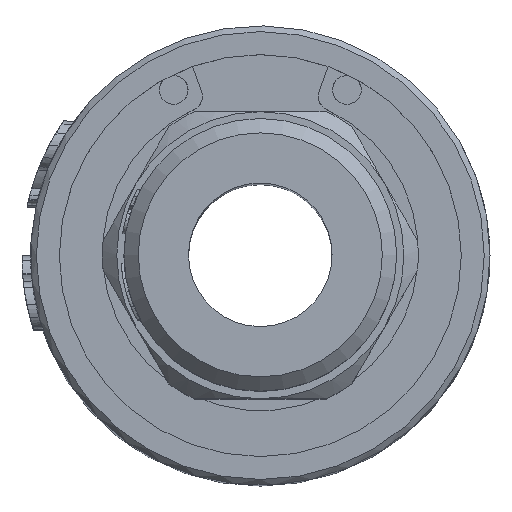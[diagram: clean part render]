
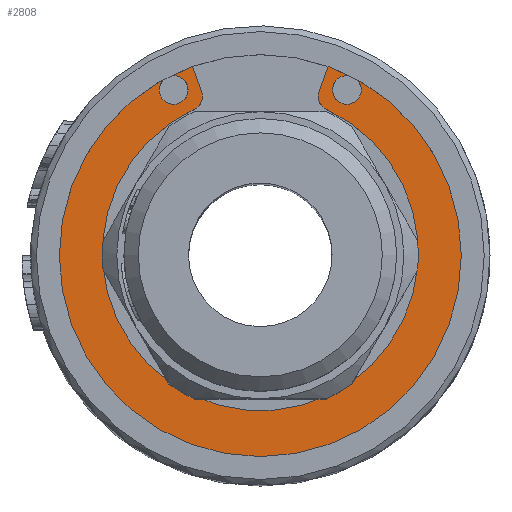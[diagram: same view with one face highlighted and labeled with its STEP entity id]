
A CAD part, top view. The second image highlights one B-rep face of the part: STEP entity #2808.
In plain terms, the highlighted planar face has unit normal (0, 0, 1).
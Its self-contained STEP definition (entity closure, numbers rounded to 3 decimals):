
#201=FACE_BOUND('',#4944,.T.);
#202=FACE_BOUND('',#4945,.T.);
#203=FACE_BOUND('',#4946,.T.);
#350=CIRCLE('',#17217,0.5);
#352=CIRCLE('',#17220,0.5);
#353=CIRCLE('',#17222,5.5);
#354=CIRCLE('',#17223,0.5);
#355=CIRCLE('',#17224,0.5);
#356=CIRCLE('',#17225,7.35);
#357=CIRCLE('',#17226,0.5);
#358=CIRCLE('',#17227,0.5);
#359=CIRCLE('',#17229,7.35);
#360=CIRCLE('',#17231,0.5);
#361=CIRCLE('',#17232,0.5);
#362=CIRCLE('',#17233,7.35);
#363=CIRCLE('',#17234,0.5);
#364=CIRCLE('',#17235,0.5);
#1207=LINE('',#31946,#1954);
#1208=LINE('',#31954,#1955);
#1209=LINE('',#31966,#1956);
#1210=LINE('',#31974,#1957);
#1954=VECTOR('',#18969,1.);
#1955=VECTOR('',#18976,1.);
#1956=VECTOR('',#18987,1.);
#1957=VECTOR('',#18994,1.);
#2808=ADVANCED_FACE('',(#201,#202,#203),#3352,.F.);
#3352=PLANE('',#17236);
#4944=EDGE_LOOP('',(#8369));
#4945=EDGE_LOOP('',(#8370,#8371,#8372,#8373,#8374,#8375,#8376,#8377,#8378,
#8379,#8380,#8381,#8382,#8383,#8384,#8385,#8386,#8387));
#4946=EDGE_LOOP('',(#8388));
#5369=ELLIPSE('',#17228,7.35,6.5);
#5370=ELLIPSE('',#17230,7.35,6.5);
#8369=ORIENTED_EDGE('',*,*,#13831,.T.);
#8370=ORIENTED_EDGE('',*,*,#13832,.F.);
#8371=ORIENTED_EDGE('',*,*,#13833,.T.);
#8372=ORIENTED_EDGE('',*,*,#13834,.T.);
#8373=ORIENTED_EDGE('',*,*,#13835,.T.);
#8374=ORIENTED_EDGE('',*,*,#13836,.F.);
#8375=ORIENTED_EDGE('',*,*,#13837,.T.);
#8376=ORIENTED_EDGE('',*,*,#13838,.T.);
#8377=ORIENTED_EDGE('',*,*,#13839,.T.);
#8378=ORIENTED_EDGE('',*,*,#13840,.F.);
#8379=ORIENTED_EDGE('',*,*,#13841,.F.);
#8380=ORIENTED_EDGE('',*,*,#13842,.T.);
#8381=ORIENTED_EDGE('',*,*,#13843,.F.);
#8382=ORIENTED_EDGE('',*,*,#13844,.F.);
#8383=ORIENTED_EDGE('',*,*,#13845,.F.);
#8384=ORIENTED_EDGE('',*,*,#13846,.T.);
#8385=ORIENTED_EDGE('',*,*,#13847,.F.);
#8386=ORIENTED_EDGE('',*,*,#13848,.F.);
#8387=ORIENTED_EDGE('',*,*,#13849,.F.);
#8388=ORIENTED_EDGE('',*,*,#13829,.F.);
#11568=VERTEX_POINT('',#31934);
#11570=VERTEX_POINT('',#31939);
#11571=VERTEX_POINT('',#31942);
#11572=VERTEX_POINT('',#31943);
#11573=VERTEX_POINT('',#31945);
#11574=VERTEX_POINT('',#31947);
#11575=VERTEX_POINT('',#31949);
#11576=VERTEX_POINT('',#31951);
#11577=VERTEX_POINT('',#31953);
#11578=VERTEX_POINT('',#31955);
#11579=VERTEX_POINT('',#31957);
#11580=VERTEX_POINT('',#31959);
#11581=VERTEX_POINT('',#31961);
#11582=VERTEX_POINT('',#31963);
#11583=VERTEX_POINT('',#31965);
#11584=VERTEX_POINT('',#31967);
#11585=VERTEX_POINT('',#31969);
#11586=VERTEX_POINT('',#31971);
#11587=VERTEX_POINT('',#31973);
#11588=VERTEX_POINT('',#31975);
#13829=EDGE_CURVE('',#11568,#11568,#350,.T.);
#13831=EDGE_CURVE('',#11570,#11570,#352,.T.);
#13832=EDGE_CURVE('',#11571,#11572,#353,.T.);
#13833=EDGE_CURVE('',#11571,#11573,#354,.T.);
#13834=EDGE_CURVE('',#11573,#11574,#1207,.T.);
#13835=EDGE_CURVE('',#11574,#11575,#355,.T.);
#13836=EDGE_CURVE('',#11576,#11575,#356,.T.);
#13837=EDGE_CURVE('',#11576,#11577,#357,.T.);
#13838=EDGE_CURVE('',#11577,#11578,#1208,.T.);
#13839=EDGE_CURVE('',#11578,#11579,#358,.T.);
#13840=EDGE_CURVE('',#11580,#11579,#5369,.T.);
#13841=EDGE_CURVE('',#11581,#11580,#359,.T.);
#13842=EDGE_CURVE('',#11581,#11582,#5370,.T.);
#13843=EDGE_CURVE('',#11583,#11582,#360,.T.);
#13844=EDGE_CURVE('',#11584,#11583,#1209,.T.);
#13845=EDGE_CURVE('',#11585,#11584,#361,.T.);
#13846=EDGE_CURVE('',#11585,#11586,#362,.T.);
#13847=EDGE_CURVE('',#11587,#11586,#363,.T.);
#13848=EDGE_CURVE('',#11588,#11587,#1210,.T.);
#13849=EDGE_CURVE('',#11572,#11588,#364,.T.);
#17217=AXIS2_PLACEMENT_3D('',#31933,#18955,#18956);
#17220=AXIS2_PLACEMENT_3D('',#31938,#18961,#18962);
#17222=AXIS2_PLACEMENT_3D('',#31941,#18965,#18966);
#17223=AXIS2_PLACEMENT_3D('',#31944,#18967,#18968);
#17224=AXIS2_PLACEMENT_3D('',#31948,#18970,#18971);
#17225=AXIS2_PLACEMENT_3D('',#31950,#18972,#18973);
#17226=AXIS2_PLACEMENT_3D('',#31952,#18974,#18975);
#17227=AXIS2_PLACEMENT_3D('',#31956,#18977,#18978);
#17228=AXIS2_PLACEMENT_3D('',#31958,#18979,#18980);
#17229=AXIS2_PLACEMENT_3D('',#31960,#18981,#18982);
#17230=AXIS2_PLACEMENT_3D('',#31962,#18983,#18984);
#17231=AXIS2_PLACEMENT_3D('',#31964,#18985,#18986);
#17232=AXIS2_PLACEMENT_3D('',#31968,#18988,#18989);
#17233=AXIS2_PLACEMENT_3D('',#31970,#18990,#18991);
#17234=AXIS2_PLACEMENT_3D('',#31972,#18992,#18993);
#17235=AXIS2_PLACEMENT_3D('',#31976,#18995,#18996);
#17236=AXIS2_PLACEMENT_3D('',#31977,#18997,#18998);
#18955=DIRECTION('',(0.,0.,1.));
#18956=DIRECTION('',(1.,0.,0.));
#18961=DIRECTION('',(0.,0.,-1.));
#18962=DIRECTION('',(-1.,0.,0.));
#18965=DIRECTION('',(0.,0.,1.));
#18966=DIRECTION('',(-1.,0.,0.));
#18967=DIRECTION('',(0.,0.,1.));
#18968=DIRECTION('',(-1.,0.,0.));
#18969=DIRECTION('',(-0.342,0.94,0.));
#18970=DIRECTION('',(0.,0.,1.));
#18971=DIRECTION('',(-1.,0.,0.));
#18972=DIRECTION('',(0.,0.,-1.));
#18973=DIRECTION('',(1.,0.,0.));
#18974=DIRECTION('',(0.,0.,1.));
#18975=DIRECTION('',(-1.,0.,0.));
#18976=DIRECTION('',(0.,-1.,0.));
#18977=DIRECTION('',(0.,0.,-1.));
#18978=DIRECTION('',(-1.,0.,0.));
#18979=DIRECTION('',(0.,0.,-1.));
#18980=DIRECTION('',(1.,0.,0.));
#18981=DIRECTION('',(0.,0.,-1.));
#18982=DIRECTION('',(-1.,0.,0.));
#18983=DIRECTION('',(0.,0.,1.));
#18984=DIRECTION('',(-1.,0.,0.));
#18985=DIRECTION('',(0.,0.,1.));
#18986=DIRECTION('',(1.,0.,0.));
#18987=DIRECTION('',(0.,-1.,0.));
#18988=DIRECTION('',(0.,0.,-1.));
#18989=DIRECTION('',(1.,0.,0.));
#18990=DIRECTION('',(0.,0.,1.));
#18991=DIRECTION('',(-1.,0.,0.));
#18992=DIRECTION('',(0.,0.,-1.));
#18993=DIRECTION('',(1.,0.,0.));
#18994=DIRECTION('',(0.342,0.94,0.));
#18995=DIRECTION('',(0.,0.,-1.));
#18996=DIRECTION('',(1.,0.,0.));
#18997=DIRECTION('',(0.,0.,-1.));
#18998=DIRECTION('',(1.,0.,0.));
#31933=CARTESIAN_POINT('',(3.016,5.773,23.4));
#31934=CARTESIAN_POINT('',(3.516,5.773,23.4));
#31938=CARTESIAN_POINT('',(-3.016,5.773,23.4));
#31939=CARTESIAN_POINT('',(-3.516,5.773,23.4));
#31941=CARTESIAN_POINT('',(0.,0.1,23.4));
#31942=CARTESIAN_POINT('',(-2.305,5.094,23.4));
#31943=CARTESIAN_POINT('',(2.305,5.094,23.4));
#31944=CARTESIAN_POINT('',(-2.515,5.548,23.4));
#31945=CARTESIAN_POINT('',(-2.045,5.719,23.4));
#31946=CARTESIAN_POINT('',(0.,0.1,23.4));
#31947=CARTESIAN_POINT('',(-2.337,6.52,23.4));
#31948=CARTESIAN_POINT('',(-2.806,6.349,23.4));
#31949=CARTESIAN_POINT('',(-3.011,6.805,23.4));
#31950=CARTESIAN_POINT('',(0.,0.1,23.4));
#31951=CARTESIAN_POINT('',(-5.04,5.45,23.4));
#31952=CARTESIAN_POINT('',(-4.697,5.086,23.4));
#31953=CARTESIAN_POINT('',(-5.197,5.086,23.4));
#31954=CARTESIAN_POINT('',(-5.197,0.1,23.4));
#31955=CARTESIAN_POINT('',(-5.197,4.917,23.4));
#31956=CARTESIAN_POINT('',(-5.697,4.917,23.4));
#31957=CARTESIAN_POINT('',(-5.355,4.553,23.4));
#31958=CARTESIAN_POINT('',(0.,0.1,23.4));
#31959=CARTESIAN_POINT('',(-7.35,0.1,23.4));
#31960=CARTESIAN_POINT('',(0.,0.1,23.4));
#31961=CARTESIAN_POINT('',(7.35,0.1,23.4));
#31962=CARTESIAN_POINT('',(0.,0.1,23.4));
#31963=CARTESIAN_POINT('',(5.355,4.553,23.4));
#31964=CARTESIAN_POINT('',(5.697,4.917,23.4));
#31965=CARTESIAN_POINT('',(5.197,4.917,23.4));
#31966=CARTESIAN_POINT('',(5.197,0.1,23.4));
#31967=CARTESIAN_POINT('',(5.197,5.086,23.4));
#31968=CARTESIAN_POINT('',(4.697,5.086,23.4));
#31969=CARTESIAN_POINT('',(5.04,5.45,23.4));
#31970=CARTESIAN_POINT('',(0.,0.1,23.4));
#31971=CARTESIAN_POINT('',(3.011,6.805,23.4));
#31972=CARTESIAN_POINT('',(2.806,6.349,23.4));
#31973=CARTESIAN_POINT('',(2.337,6.52,23.4));
#31974=CARTESIAN_POINT('',(0.,0.1,23.4));
#31975=CARTESIAN_POINT('',(2.045,5.719,23.4));
#31976=CARTESIAN_POINT('',(2.515,5.548,23.4));
#31977=CARTESIAN_POINT('',(0.,0.1,23.4));
